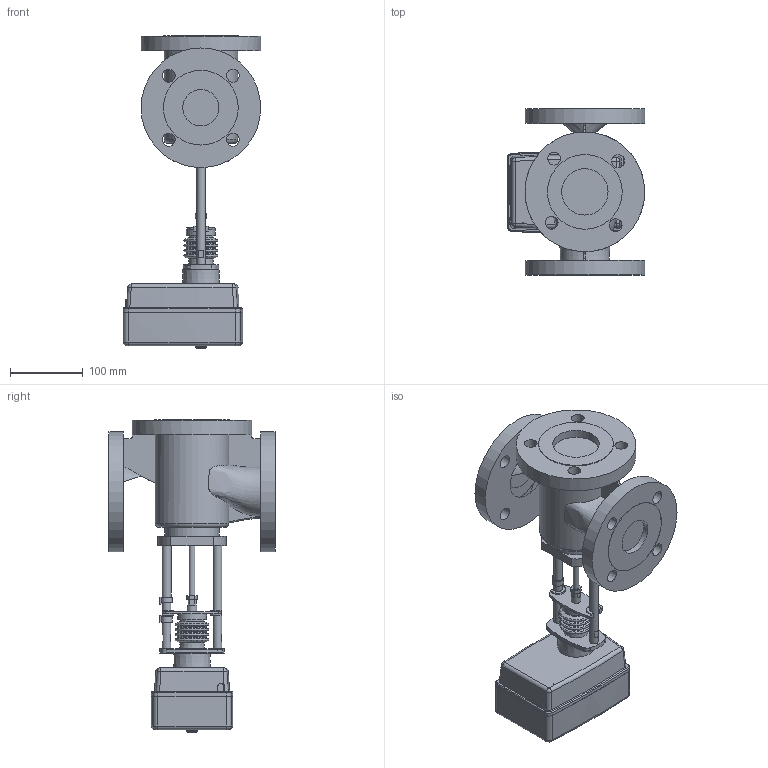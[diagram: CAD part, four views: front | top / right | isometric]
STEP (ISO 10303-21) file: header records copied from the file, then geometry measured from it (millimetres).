
FILE_DESCRIPTION(/* description */ ('Unknown'),/* implementation_level */ '2;1');
FILE_NAME(/* name */ 'TRV-3-50-101(модель)',/* time_stamp */ '2021-11-23T15:09:57+03:00',/* author */ ('Unknown'),/* organization */ ('Unknown'),/* preprocessor_version */ 'ST-DEVELOPER v16.7',/* originating_system */ 'DEX',/* authorisation */ $);
FILE_SCHEMA (('AUTOMOTIVE_DESIGN {1 0 10303 214 3 1 1}'));
Length unit declared in the file: millimetre
Products named in the file (1): TRV-3-50-101(斁麧錪)
Bounding box: 189.46 x 230 x 431.4 mm (x, y, z)
Volume: 4372352.1 mm3; surface area: 353404.8 mm2
Topology: 1 solids, 1 shells, 336 faces, 853 edges, 541 vertices
Faces by surface type: plane 173, cylinder 90, torus 38, cone 22, bspline 9, sphere 4
Full cylindrical faces by diameter (mm): 8 x1, 12.002 x4, 13 x1, 15 x1, 17.7 x12, 33.4 x1, 33.972 x1, 40 x1, 50 x2, 64 x1, 74.747 x1, 101.225 x1, 103 x3, 165 x3
Entity records: 14798 total; most frequent: CARTESIAN_POINT 4564, DIRECTION 1700, ORIENTED_EDGE 1514, EDGE_CURVE 757, AXIS2_PLACEMENT_3D 661, VERTEX_POINT 507, EDGE_LOOP 452, FACE_BOUND 452
